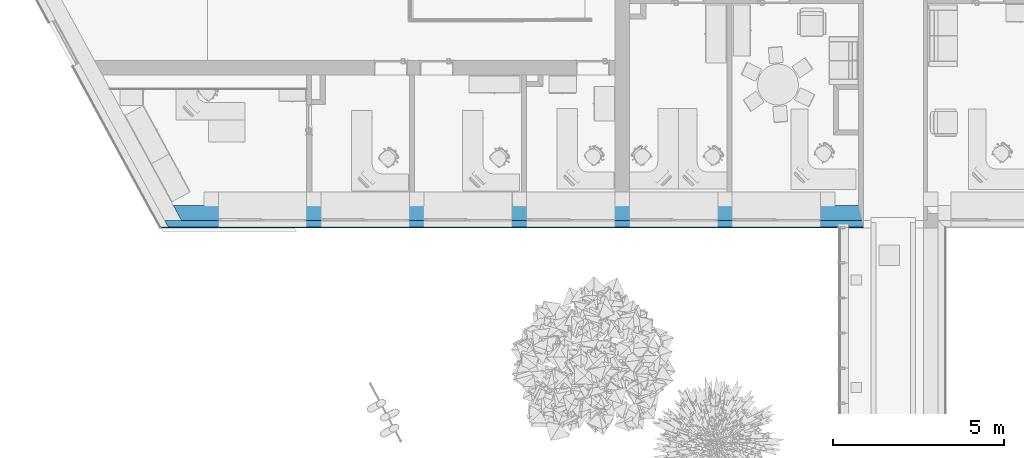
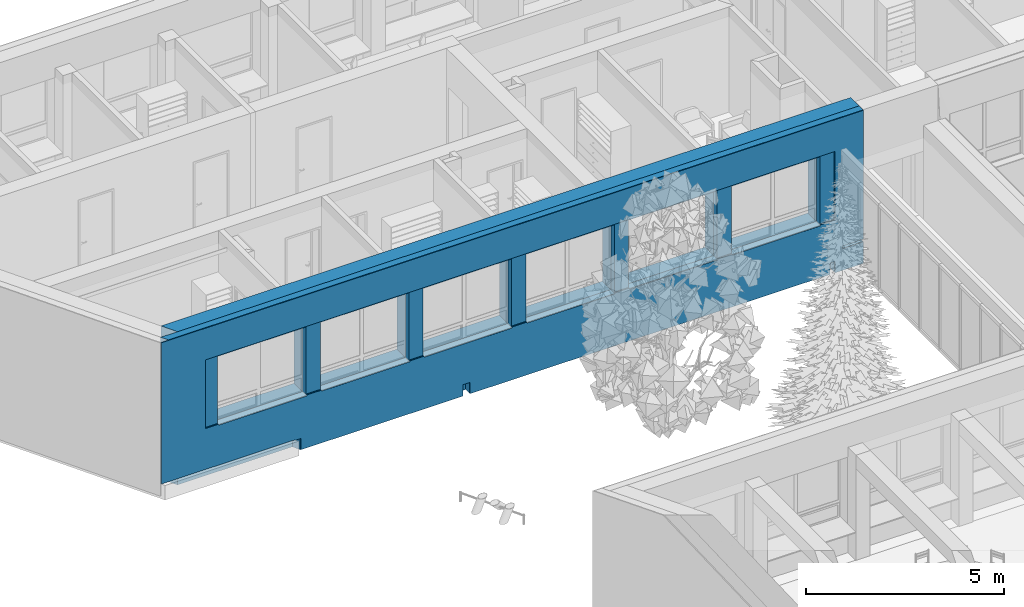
# One storey, part 86 of 194: 3 building element parts, 6 openings, 1 element without a shape of its own.
"""IFC2X3 building model written with IfcOpenShell, lengths in millimetres."""

from ifc_helpers import new_model, entity, si_unit, converted_unit, derived_unit, money_unit, direction, frame, origin_with_axes, origin_2d_with_axis, place, context, subcontext, project, spatial, polyline, rectangle, outline, extrude, boolean, faceted_brep, material, type_object, element, aggregate, save


model = new_model("IFC2X3")

# Units and contexts
model_context = context("Model", 3, precision=1e-05, world=origin_with_axes(), true_north=direction((0.0, 1.0)))
body_context = subcontext(model_context, "Body", "Model", "MODEL_VIEW")
ifc_project = project(units=[si_unit("LENGTHUNIT", "METRE", prefix="MILLI"), si_unit("AREAUNIT", "SQUARE_METRE"), si_unit("VOLUMEUNIT", "CUBIC_METRE"), converted_unit("PLANEANGLEUNIT", "DEGREE", entity("IfcPlaneAngleMeasure", 0.0174532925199), si_unit("PLANEANGLEUNIT", "RADIAN"), dimensions=[0, 0, 0, 0, 0, 0, 0]), si_unit("SOLIDANGLEUNIT", "STERADIAN"), money_unit("EUR"), converted_unit("TIMEUNIT", "Year", entity("IfcTimeMeasure", 31556926.0), si_unit("TIMEUNIT", "SECOND"), dimensions=[0, 0, 1, 0, 0, 0, 0]), si_unit("MASSUNIT", "GRAM", prefix="KILO"), si_unit("THERMODYNAMICTEMPERATUREUNIT", "DEGREE_CELSIUS"), si_unit("LUMINOUSINTENSITYUNIT", "LUMEN"), si_unit("ENERGYUNIT", "JOULE", prefix="MEGA"), derived_unit("THERMALCONDUCTANCEUNIT", [(si_unit("POWERUNIT", "WATT"), 1), (si_unit("LENGTHUNIT", "METRE"), -1), (si_unit("THERMODYNAMICTEMPERATUREUNIT", "KELVIN"), -1)]), derived_unit("SPECIFICHEATCAPACITYUNIT", [(si_unit("ENERGYUNIT", "JOULE"), 1), (si_unit("MASSUNIT", "GRAM", prefix="KILO"), -1), (si_unit("THERMODYNAMICTEMPERATUREUNIT", "KELVIN"), -1)]), derived_unit("MASSDENSITYUNIT", [(si_unit("MASSUNIT", "GRAM", prefix="KILO"), 1), (si_unit("VOLUMEUNIT", "CUBIC_METRE"), -1)])], contexts=[model_context])

# Site, building, storey
site_placement = place(None, origin_with_axes())
site = spatial("IfcSite", under=ifc_project, at=site_placement, Name="Site", CompositionType="ELEMENT")
building_placement = place(site_placement, origin_with_axes())
building = spatial("IfcBuilding", under=site, at=building_placement, Name="Building", CompositionType="ELEMENT")
storey_placement = place(building_placement, frame((0.0, 0.0, 3000.0), z_axis=(0.0, 0.0, 1.0), x_axis=(1.0, 0.0, 0.0)))
storey = spatial("IfcBuildingStorey", under=building, at=storey_placement, Name="2 KORRUS", CompositionType="ELEMENT", Elevation=3000.0)

# Wall, openings, building element parts
wall_type = type_object("IfcWallType", Name="VS4", PredefinedType="NOTDEFINED")
wall_placement = place(storey_placement, frame((17590.5379718, 34349.5880463, -750.0), z_axis=(0.0, 0.0, 1.0), x_axis=(0.999999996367, 8.52438352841e-05, 0.0)))
wall = element("IfcWall", 1, at=wall_placement, inside=storey, type_object=wall_type, Name="VS4")
opening_1_placement = place(wall_placement, frame((2854.92214008, 0.0, 1600.0), z_axis=(0.0, 0.0, 1.0), x_axis=(1.0, 0.0, 0.0)))
element("IfcOpeningElement", 2, at=opening_1_placement, cuts=wall, Name="välisaken * Double Window 22", context=body_context, shape_type="SweptSolid", body=[
    extrude(rectangle(XDim=2580.0, YDim=2100.0, at=origin_2d_with_axis()), frame((-1.13686837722e-10, -20.0000000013, 1050.0), z_axis=(0.0, 1.0, 0.0), x_axis=(-1.0, 0.0, 0.0)), (0.0, 0.0, 1.0), 1100.0),
    extrude(rectangle(XDim=2580.0, YDim=2100.0, at=origin_2d_with_axis()), frame((0.0, -20.0000000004, 1050.0), z_axis=(0.0, -1.0, 0.0), x_axis=(-1.0, 0.0, 0.0)), (0.0, 0.0, 1.0), 850.000000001),
])
opening_2_placement = place(wall_placement, frame((5856.58313376, 0.0, 1600.0), z_axis=(0.0, 0.0, 1.0), x_axis=(1.0, 0.0, 0.0)))
element("IfcOpeningElement", 3, at=opening_2_placement, cuts=wall, Name="välisaken * Double Window 22", context=body_context, shape_type="SweptSolid", body=[
    extrude(rectangle(XDim=2580.0, YDim=2100.0, at=origin_2d_with_axis()), frame((0.0, -20.0000000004, 1050.0), z_axis=(0.0, 1.0, 0.0), x_axis=(-1.0, 0.0, 0.0)), (0.0, 0.0, 1.0), 1100.0),
    extrude(rectangle(XDim=2580.0, YDim=2100.0, at=origin_2d_with_axis()), frame((1.13686837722e-10, -19.9999999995, 1050.0), z_axis=(0.0, -1.0, 0.0), x_axis=(-1.0, 0.0, 0.0)), (0.0, 0.0, 1.0), 850.000000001),
])
opening_3_placement = place(wall_placement, frame((8847.04614995, 0.0, 1600.0), z_axis=(0.0, 0.0, 1.0), x_axis=(1.0, 0.0, 0.0)))
element("IfcOpeningElement", 4, at=opening_3_placement, cuts=wall, Name="välisaken * Double Window 22", context=body_context, shape_type="SweptSolid", body=[
    extrude(rectangle(XDim=2580.0, YDim=2100.0, at=origin_2d_with_axis()), frame((-1.13686837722e-10, -20.0000000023, 1050.0), z_axis=(0.0, 1.0, 0.0), x_axis=(-1.0, 0.0, 0.0)), (0.0, 0.0, 1.0), 1100.0),
    extrude(rectangle(XDim=2580.0, YDim=2100.0, at=origin_2d_with_axis()), frame((0.0, -20.0000000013, 1050.0), z_axis=(0.0, -1.0, 0.0), x_axis=(-1.0, 0.0, 0.0)), (0.0, 0.0, 1.0), 850.000000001),
])
opening_4_placement = place(wall_placement, frame((11854.7149031, 9.09494701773e-10, 1600.0), z_axis=(0.0, 0.0, 1.0), x_axis=(1.0, 0.0, 0.0)))
element("IfcOpeningElement", 5, at=opening_4_placement, cuts=wall, Name="välisaken * Double Window 22", context=body_context, shape_type="SweptSolid", body=[
    extrude(rectangle(XDim=2580.0, YDim=2100.0, at=origin_2d_with_axis()), frame((0.0, -20.0000000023, 1050.0), z_axis=(0.0, 1.0, 0.0), x_axis=(-1.0, 0.0, 0.0)), (0.0, 0.0, 1.0), 1100.0),
    extrude(rectangle(XDim=2580.0, YDim=2100.0, at=origin_2d_with_axis()), frame((1.13686837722e-10, -20.0000000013, 1050.0), z_axis=(0.0, -1.0, 0.0), x_axis=(-1.0, 0.0, 0.0)), (0.0, 0.0, 1.0), 850.000000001),
])
opening_5_placement = place(wall_placement, frame((14854.7072847, 9.09494701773e-10, 1600.0), z_axis=(0.0, 0.0, 1.0), x_axis=(1.0, 0.0, 0.0)))
element("IfcOpeningElement", 6, at=opening_5_placement, cuts=wall, Name="välisaken * Double Window 22", context=body_context, shape_type="SweptSolid", body=[
    extrude(rectangle(XDim=2580.0, YDim=2100.0, at=origin_2d_with_axis()), frame((0.0, -20.0000000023, 1050.0), z_axis=(0.0, 1.0, 0.0), x_axis=(-1.0, 0.0, 0.0)), (0.0, 0.0, 1.0), 1100.0),
    extrude(rectangle(XDim=2580.0, YDim=2100.0, at=origin_2d_with_axis()), frame((1.13686837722e-10, -20.0000000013, 1050.0), z_axis=(0.0, -1.0, 0.0), x_axis=(-1.0, 0.0, 0.0)), (0.0, 0.0, 1.0), 850.000000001),
])
opening_6_placement = place(wall_placement, frame((17854.8632739, 0.0, 1600.0), z_axis=(0.0, 0.0, 1.0), x_axis=(1.0, 0.0, 0.0)))
element("IfcOpeningElement", 7, at=opening_6_placement, cuts=wall, Name="välisaken * Double Window 22", context=body_context, shape_type="SweptSolid", body=[
    extrude(rectangle(XDim=2580.0, YDim=2100.0, at=origin_2d_with_axis()), frame((-1.13686837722e-10, -20.0000000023, 1050.0), z_axis=(0.0, 1.0, 0.0), x_axis=(-1.0, 0.0, 0.0)), (0.0, 0.0, 1.0), 1100.0),
    extrude(rectangle(XDim=2580.0, YDim=2100.0, at=origin_2d_with_axis()), frame((0.0, -20.0000000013, 1050.0), z_axis=(0.0, -1.0, 0.0), x_axis=(-1.0, 0.0, 0.0)), (0.0, 0.0, 1.0), 850.000000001),
])
ifc_material_1 = material(Name="Tellis - Konstuktsioon")
building_element_part_1_placement = place(wall_placement, origin_with_axes())
solid_1 = boolean("DIFFERENCE", boolean("DIFFERENCE", boolean("DIFFERENCE", boolean("DIFFERENCE", boolean("DIFFERENCE", boolean("DIFFERENCE", boolean("DIFFERENCE", boolean("DIFFERENCE", extrude(outline(polyline([(-484.074926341, 0.0), (20393.3507712, 9.09494701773e-10), (20393.3507712, 430.0), (-484.074926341, 430.0), (-484.074926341, 0.0)])), origin_with_axes(), (0.0, 0.0, 1.0), 4730.0), faceted_brep([(-484.074926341, 0.0, 4730.0), (-484.074926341, 0.0, 0.0), (489.396681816, -9.09494701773e-10, 0.0), (489.396681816, -9.09494701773e-10, 367.85512503), (489.396681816, -9.09494701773e-10, 4730.0), (-484.074926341, 430.0, 4730.0), (-484.074926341, 430.0, 0.0), (255.710755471, 430.0, 0.0), (255.710755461, 430.000000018, 4730.0)], [[[0, 1, 2, 3, 4]], [[1, 0, 5, 6]], [[1, 6, 7, 2]], [[7, 8, 4, 3, 2]], [[0, 4, 8, 5]], [[6, 5, 8, 7]]])), faceted_brep([(20393.3141136, 9.09494701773e-10, 750.0), (20393.3141136, 9.09494701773e-10, 4000.0), (20393.3141164, 0.0, 4730.0), (20393.3141164, 430.0, 0.0), (20393.3141154, 9.09494701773e-10, 0.0), (20393.3507712, 1.81898940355e-09, 0.0), (20393.3507712, 1.81898940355e-09, 4730.0), (20393.3507656, 429.999996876, 750.0), (20393.3507712, 430.0, 0.0), (20393.3507656, 429.999997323, 4000.0), (20393.3507712, 430.0, 4730.0), (20393.3141164, 430.000000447, 4730.0)], [[[0, 1, 2, 3, 4]], [[1, 0, 4, 5, 6, 2]], [[3, 2, 7]], [[4, 3, 8, 5]], [[7, 9, 10, 6, 5, 8]], [[11, 2, 6, 10]], [[2, 9, 7]], [[3, 7, 8]], [[9, 11, 10]], [[2, 11, 9]]])), faceted_brep([(108.691128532, -200.0, 367.85512503), (108.691128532, -200.0, 4730.0), (-484.074926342, -200.0, 4730.0), (-484.074926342, -200.0, 0.0), (3953.73651396, -200.000000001, 0.0), (3953.73651396, -200.0, 350.0), (3785.4435919, -200.0, 350.0), (3785.4435919, -200.000000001, 367.85512503), (5.68434188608e-10, 0.0, 4730.0), (5.68434188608e-10, 0.0, 367.85512503), (-484.074926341, 0.0, 4730.0), (-484.074926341, 0.0, 0.0), (3842.28870899, -9.09494701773e-10, 0.0), (3842.28870899, -9.09494701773e-10, 350.0), (3675.46643003, -9.09494701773e-10, 350.0), (3675.46643003, 0.0, 367.85512503)], [[[0, 1, 2, 3, 4, 5, 6, 7]], [[8, 1, 0, 9]], [[1, 8, 10, 2]], [[10, 11, 3, 2]], [[12, 4, 3, 11]], [[4, 12, 13, 5]], [[13, 14, 6, 5]], [[14, 15, 7, 6]], [[15, 9, 0, 7]], [[13, 12, 11, 10, 8, 9, 15, 14]]])), faceted_brep([(8705.25905112, -200.0, 350.0), (8705.25905112, -200.0, 0.0), (8905.25917936, -200.0, 0.0), (8905.25917936, -200.0, 350.0), (8705.03256246, 0.0, 0.0), (8705.03256246, 9.09494701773e-10, 350.0), (8905.0326907, 0.0, 0.0), (8905.0326907, 0.0, 350.0)], [[[0, 1, 2, 3]], [[4, 1, 0, 5]], [[6, 2, 1, 4]], [[2, 6, 7, 3]], [[7, 5, 0, 3]], [[7, 6, 4, 5]]])), faceted_brep([(1187.75777551, -200.0, 1630.0), (19563.7740258, -199.999999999, 1630.0), (19563.7740258, -199.999999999, 3750.0), (1187.75777551, -200.0, 3750.0), (1187.75989417, -175.145925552, 1630.0), (19563.7760109, -176.712367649, 1630.0), (19563.7760109, -176.712367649, 3750.0), (1187.75989417, -175.145925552, 3750.0)], [[[0, 1, 2, 3]], [[1, 0, 4, 5]], [[2, 1, 5, 6]], [[3, 2, 6, 7]], [[0, 3, 7, 4]], [[5, 4, 7, 6]]])), faceted_brep([(19413.7913698, 0.0, 0.0), (19413.7913698, 0.0, 350.0), (19563.7913704, 9.09494701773e-10, 350.0), (19563.7913704, 0.0, 0.0), (19413.774321, -200.0, 0.0), (19413.774321, -200.0, 350.0), (19563.7743216, -200.0, 350.0), (19563.7743216, -200.0, 0.0)], [[[0, 1, 2, 3]], [[1, 0, 4, 5]], [[2, 1, 5, 6]], [[3, 2, 6, 7]], [[4, 0, 3, 7]], [[5, 4, 7, 6]]])), faceted_brep([(20393.3141164, 0.0, 4730.0), (20393.3141164, -200.0, 4730.0), (20393.3507712, -199.999999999, 4730.0), (20393.3507712, 1.81898940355e-09, 4730.0), (20393.3141136, 9.09494701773e-10, 4000.0), (20393.2988849, -200.0, 670.0), (20393.3141164, -200.0, 0.0), (20393.3507712, -199.999999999, 0.0), (20393.2970662, -200.0, 4000.0), (20393.2970662, -200.0, 750.0), (19776.6055617, -200.0, 750.0), (19776.6055617, -200.0, 670.0), (20393.3507712, 1.81898940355e-09, 0.0), (20393.3141164, 9.09494701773e-10, 0.0), (20393.3141136, 9.09494701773e-10, 750.0), (20393.3141164, -100.001962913, 670.0), (20393.3055897, -100.001962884, 750.0), (19776.6493423, -99.9998208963, 750.0), (19776.6493423, -99.9998208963, 670.0)], [[[0, 1, 2, 3]], [[1, 0, 4]], [[5, 6, 7, 2, 1, 8, 9, 10, 11]], [[2, 7, 12, 3]], [[4, 0, 3, 12, 13, 14]], [[8, 1, 4]], [[6, 5, 15]], [[6, 13, 12, 7]], [[9, 8, 4, 14, 16]], [[16, 17, 10, 9]], [[17, 18, 11, 10]], [[18, 15, 5, 11]], [[13, 6, 15, 14]], [[16, 14, 15]], [[17, 16, 15, 18]]])), faceted_brep([(-108.066122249, -219.999999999, 367.85512503), (-108.066122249, -219.999999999, 4730.0), (-484.074926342, -219.999999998, 4730.0), (-484.074926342, -219.999999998, 0.0), (3964.88129446, -220.0, 0.0), (3964.88129446, -219.999999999, 350.0), (3796.44130809, -219.999999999, 350.0), (3796.44130809, -220.0, 367.85512503), (-118.935235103, -200.0, 4730.0), (-118.935235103, -200.0, 367.85512503), (-484.074926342, -200.0, 4730.0), (-484.074926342, -200.0, 0.0), (3953.73651396, -200.000000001, 0.0), (3953.73651396, -200.0, 350.0), (3785.4435919, -200.0, 350.0), (3785.4435919, -200.000000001, 367.85512503)], [[[0, 1, 2, 3, 4, 5, 6, 7]], [[8, 1, 0, 9]], [[1, 8, 10, 2]], [[10, 11, 3, 2]], [[12, 4, 3, 11]], [[5, 4, 12, 13]], [[6, 5, 13, 14]], [[7, 6, 14, 15]], [[0, 7, 15, 9]], [[13, 12, 11, 10, 8, 9, 15, 14]]]))
building_element_part_1 = element("IfcBuildingElementPart", 8, at=building_element_part_1_placement, material=ifc_material_1, Name="Tellis - Konstuktsioon", context=body_context, shape_type="CSG", body=[
    boolean("DIFFERENCE", boolean("DIFFERENCE", boolean("DIFFERENCE", boolean("DIFFERENCE", solid_1, faceted_brep([(8705.28169998, -219.999999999, 350.0), (8705.28169998, -220.0, 0.0), (8905.28182823, -220.0, 0.0), (8905.28182823, -219.999999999, 350.0), (8705.25905112, -200.0, 350.0), (8705.25905112, -200.0, 0.0), (8905.25917936, -200.0, 0.0), (8905.25917936, -200.0, 350.0)], [[[0, 1, 2, 3]], [[1, 0, 4, 5]], [[6, 2, 1, 5]], [[3, 2, 6, 7]], [[0, 3, 7, 4]], [[7, 6, 5, 4]]])), faceted_brep([(1187.75607063, -220.0, 1630.0), (19563.7723209, -220.0, 1630.0), (19563.7723209, -220.0, 3750.0), (1187.75607063, -220.0, 3750.0), (1187.75777551, -200.0, 1630.0), (19563.7740258, -200.0, 1630.0), (19563.7740258, -200.0, 3750.0), (1187.75777551, -200.0, 3750.0)], [[[0, 1, 2, 3]], [[4, 5, 1, 0]], [[5, 6, 2, 1]], [[6, 7, 3, 2]], [[7, 4, 0, 3]], [[4, 7, 6, 5]]])), faceted_brep([(19413.774321, -200.0, 0.0), (19413.774321, -200.0, 350.0), (19563.7743216, -200.0, 350.0), (19563.7743216, -200.0, 0.0), (19413.7726162, -220.0, 0.0), (19413.7726162, -219.999999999, 350.0), (19563.7726167, -219.999999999, 350.0), (19563.7726167, -219.999999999, 0.0)], [[[0, 1, 2, 3]], [[0, 4, 5, 1]], [[5, 6, 2, 1]], [[7, 3, 2, 6]], [[4, 0, 3, 7]], [[5, 4, 7, 6]]])), faceted_brep([(20393.2970662, -200.0, 4000.0), (20393.3141164, -200.0, 4000.0), (20393.3141164, -200.0, 4730.0), (20393.3507712, -199.999999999, 4730.0), (20393.3507712, -199.999999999, 0.0), (20393.3141164, -200.0, 0.0), (20393.3141164, -200.0, 670.0), (19776.6055617, -200.0, 670.0), (19776.6055617, -200.0, 750.0), (20393.2970662, -200.0, 750.0), (20393.2953614, -219.999999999, 4000.0), (20393.3141164, -219.999999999, 4000.0), (20393.3141164, -219.999999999, 4730.0), (20393.3507712, -219.999999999, 4730.0), (20393.3507712, -219.999999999, 0.0), (20393.3141164, -219.999999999, 0.0), (20393.3141164, -219.999999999, 670.0), (19776.5968056, -219.999999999, 670.0), (19776.5968056, -219.999999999, 750.0), (20393.2953614, -219.999999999, 750.0)], [[[0, 1, 2, 3, 4, 5, 6, 7, 8, 9]], [[1, 0, 10, 11]], [[12, 2, 1, 11]], [[2, 12, 13, 3]], [[13, 14, 4, 3]], [[15, 5, 4, 14]], [[6, 5, 15, 16]], [[6, 16, 17, 7]], [[17, 18, 8, 7]], [[18, 19, 9, 8]], [[0, 9, 19, 10]], [[16, 15, 14, 13, 12, 11, 10, 19, 18, 17]]])),
])
ifc_material_2 = material(Name="Soojustus - Plastik Kõva")
building_element_part_2_placement = place(wall_placement, origin_with_axes())
solid_2 = boolean("DIFFERENCE", boolean("DIFFERENCE", boolean("DIFFERENCE", boolean("DIFFERENCE", boolean("DIFFERENCE", boolean("DIFFERENCE", boolean("DIFFERENCE", boolean("DIFFERENCE", extrude(outline(polyline([(-484.074926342, -200.0), (20393.3507712, -199.999999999), (20393.3507712, 9.09494701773e-10), (-484.074926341, 0.0), (-484.074926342, -200.0)])), origin_with_axes(), (0.0, 0.0, 1.0), 4730.0), faceted_brep([(-484.074926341, 0.0, 4730.0), (-484.074926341, 0.0, 0.0), (489.396681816, -9.09494701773e-10, 0.0), (489.396681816, -9.09494701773e-10, 367.85512503), (489.396681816, -9.09494701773e-10, 4730.0), (-484.074926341, 430.0, 4730.0), (-484.074926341, 430.0, 0.0), (255.710755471, 430.0, 0.0), (255.710755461, 430.000000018, 4730.0)], [[[0, 1, 2, 3, 4]], [[1, 0, 5, 6]], [[1, 6, 7, 2]], [[7, 8, 4, 3, 2]], [[0, 4, 8, 5]], [[6, 5, 8, 7]]])), faceted_brep([(20393.3141136, 9.09494701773e-10, 750.0), (20393.3141136, 9.09494701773e-10, 4000.0), (20393.3141164, 0.0, 4730.0), (20393.3141164, 430.0, 0.0), (20393.3141154, 9.09494701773e-10, 0.0), (20393.3507712, 1.81898940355e-09, 0.0), (20393.3507712, 1.81898940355e-09, 4730.0), (20393.3507656, 429.999996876, 750.0), (20393.3507712, 430.0, 0.0), (20393.3507656, 429.999997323, 4000.0), (20393.3507712, 430.0, 4730.0), (20393.3141164, 430.000000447, 4730.0)], [[[0, 1, 2, 3, 4]], [[1, 0, 4, 5, 6, 2]], [[3, 2, 7]], [[4, 3, 8, 5]], [[7, 9, 10, 6, 5, 8]], [[11, 2, 6, 10]], [[2, 9, 7]], [[3, 7, 8]], [[9, 11, 10]], [[2, 11, 9]]])), faceted_brep([(108.691128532, -200.0, 367.85512503), (108.691128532, -200.0, 4730.0), (-484.074926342, -200.0, 4730.0), (-484.074926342, -200.0, 0.0), (3953.73651396, -200.000000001, 0.0), (3953.73651396, -200.0, 350.0), (3785.4435919, -200.0, 350.0), (3785.4435919, -200.000000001, 367.85512503), (5.68434188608e-10, 0.0, 4730.0), (5.68434188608e-10, 0.0, 367.85512503), (-484.074926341, 0.0, 4730.0), (-484.074926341, 0.0, 0.0), (3842.28870899, -9.09494701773e-10, 0.0), (3842.28870899, -9.09494701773e-10, 350.0), (3675.46643003, -9.09494701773e-10, 350.0), (3675.46643003, 0.0, 367.85512503)], [[[0, 1, 2, 3, 4, 5, 6, 7]], [[8, 1, 0, 9]], [[1, 8, 10, 2]], [[10, 11, 3, 2]], [[12, 4, 3, 11]], [[4, 12, 13, 5]], [[13, 14, 6, 5]], [[14, 15, 7, 6]], [[15, 9, 0, 7]], [[13, 12, 11, 10, 8, 9, 15, 14]]])), faceted_brep([(8705.25905112, -200.0, 350.0), (8705.25905112, -200.0, 0.0), (8905.25917936, -200.0, 0.0), (8905.25917936, -200.0, 350.0), (8705.03256246, 0.0, 0.0), (8705.03256246, 9.09494701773e-10, 350.0), (8905.0326907, 0.0, 0.0), (8905.0326907, 0.0, 350.0)], [[[0, 1, 2, 3]], [[4, 1, 0, 5]], [[6, 2, 1, 4]], [[2, 6, 7, 3]], [[7, 5, 0, 3]], [[7, 6, 4, 5]]])), faceted_brep([(1187.75777551, -200.0, 1630.0), (19563.7740258, -199.999999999, 1630.0), (19563.7740258, -199.999999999, 3750.0), (1187.75777551, -200.0, 3750.0), (1187.75989417, -175.145925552, 1630.0), (19563.7760109, -176.712367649, 1630.0), (19563.7760109, -176.712367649, 3750.0), (1187.75989417, -175.145925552, 3750.0)], [[[0, 1, 2, 3]], [[1, 0, 4, 5]], [[2, 1, 5, 6]], [[3, 2, 6, 7]], [[0, 3, 7, 4]], [[5, 4, 7, 6]]])), faceted_brep([(19413.7913698, 0.0, 0.0), (19413.7913698, 0.0, 350.0), (19563.7913704, 9.09494701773e-10, 350.0), (19563.7913704, 0.0, 0.0), (19413.774321, -200.0, 0.0), (19413.774321, -200.0, 350.0), (19563.7743216, -200.0, 350.0), (19563.7743216, -200.0, 0.0)], [[[0, 1, 2, 3]], [[1, 0, 4, 5]], [[2, 1, 5, 6]], [[3, 2, 6, 7]], [[4, 0, 3, 7]], [[5, 4, 7, 6]]])), faceted_brep([(20393.3141164, 0.0, 4730.0), (20393.3141164, -200.0, 4730.0), (20393.3507712, -199.999999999, 4730.0), (20393.3507712, 1.81898940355e-09, 4730.0), (20393.3141136, 9.09494701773e-10, 4000.0), (20393.2988849, -200.0, 670.0), (20393.3141164, -200.0, 0.0), (20393.3507712, -199.999999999, 0.0), (20393.2970662, -200.0, 4000.0), (20393.2970662, -200.0, 750.0), (19776.6055617, -200.0, 750.0), (19776.6055617, -200.0, 670.0), (20393.3507712, 1.81898940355e-09, 0.0), (20393.3141164, 9.09494701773e-10, 0.0), (20393.3141136, 9.09494701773e-10, 750.0), (20393.3141164, -100.001962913, 670.0), (20393.3055897, -100.001962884, 750.0), (19776.6493423, -99.9998208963, 750.0), (19776.6493423, -99.9998208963, 670.0)], [[[0, 1, 2, 3]], [[1, 0, 4]], [[5, 6, 7, 2, 1, 8, 9, 10, 11]], [[2, 7, 12, 3]], [[4, 0, 3, 12, 13, 14]], [[8, 1, 4]], [[6, 5, 15]], [[6, 13, 12, 7]], [[9, 8, 4, 14, 16]], [[16, 17, 10, 9]], [[17, 18, 11, 10]], [[18, 15, 5, 11]], [[13, 6, 15, 14]], [[16, 14, 15]], [[17, 16, 15, 18]]])), faceted_brep([(-108.066122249, -219.999999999, 367.85512503), (-108.066122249, -219.999999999, 4730.0), (-484.074926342, -219.999999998, 4730.0), (-484.074926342, -219.999999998, 0.0), (3964.88129446, -220.0, 0.0), (3964.88129446, -219.999999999, 350.0), (3796.44130809, -219.999999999, 350.0), (3796.44130809, -220.0, 367.85512503), (-118.935235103, -200.0, 4730.0), (-118.935235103, -200.0, 367.85512503), (-484.074926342, -200.0, 4730.0), (-484.074926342, -200.0, 0.0), (3953.73651396, -200.000000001, 0.0), (3953.73651396, -200.0, 350.0), (3785.4435919, -200.0, 350.0), (3785.4435919, -200.000000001, 367.85512503)], [[[0, 1, 2, 3, 4, 5, 6, 7]], [[8, 1, 0, 9]], [[1, 8, 10, 2]], [[10, 11, 3, 2]], [[12, 4, 3, 11]], [[5, 4, 12, 13]], [[6, 5, 13, 14]], [[7, 6, 14, 15]], [[0, 7, 15, 9]], [[13, 12, 11, 10, 8, 9, 15, 14]]]))
building_element_part_2 = element("IfcBuildingElementPart", 9, at=building_element_part_2_placement, material=ifc_material_2, Name="Soojustus - Plastik Kõva", context=body_context, shape_type="CSG", body=[
    boolean("DIFFERENCE", boolean("DIFFERENCE", boolean("DIFFERENCE", boolean("DIFFERENCE", solid_2, faceted_brep([(8705.28169998, -219.999999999, 350.0), (8705.28169998, -220.0, 0.0), (8905.28182823, -220.0, 0.0), (8905.28182823, -219.999999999, 350.0), (8705.25905112, -200.0, 350.0), (8705.25905112, -200.0, 0.0), (8905.25917936, -200.0, 0.0), (8905.25917936, -200.0, 350.0)], [[[0, 1, 2, 3]], [[1, 0, 4, 5]], [[6, 2, 1, 5]], [[3, 2, 6, 7]], [[0, 3, 7, 4]], [[7, 6, 5, 4]]])), faceted_brep([(1187.75607063, -220.0, 1630.0), (19563.7723209, -220.0, 1630.0), (19563.7723209, -220.0, 3750.0), (1187.75607063, -220.0, 3750.0), (1187.75777551, -200.0, 1630.0), (19563.7740258, -200.0, 1630.0), (19563.7740258, -200.0, 3750.0), (1187.75777551, -200.0, 3750.0)], [[[0, 1, 2, 3]], [[4, 5, 1, 0]], [[5, 6, 2, 1]], [[6, 7, 3, 2]], [[7, 4, 0, 3]], [[4, 7, 6, 5]]])), faceted_brep([(19413.774321, -200.0, 0.0), (19413.774321, -200.0, 350.0), (19563.7743216, -200.0, 350.0), (19563.7743216, -200.0, 0.0), (19413.7726162, -220.0, 0.0), (19413.7726162, -219.999999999, 350.0), (19563.7726167, -219.999999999, 350.0), (19563.7726167, -219.999999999, 0.0)], [[[0, 1, 2, 3]], [[0, 4, 5, 1]], [[5, 6, 2, 1]], [[7, 3, 2, 6]], [[4, 0, 3, 7]], [[5, 4, 7, 6]]])), faceted_brep([(20393.2970662, -200.0, 4000.0), (20393.3141164, -200.0, 4000.0), (20393.3141164, -200.0, 4730.0), (20393.3507712, -199.999999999, 4730.0), (20393.3507712, -199.999999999, 0.0), (20393.3141164, -200.0, 0.0), (20393.3141164, -200.0, 670.0), (19776.6055617, -200.0, 670.0), (19776.6055617, -200.0, 750.0), (20393.2970662, -200.0, 750.0), (20393.2953614, -219.999999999, 4000.0), (20393.3141164, -219.999999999, 4000.0), (20393.3141164, -219.999999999, 4730.0), (20393.3507712, -219.999999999, 4730.0), (20393.3507712, -219.999999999, 0.0), (20393.3141164, -219.999999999, 0.0), (20393.3141164, -219.999999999, 670.0), (19776.5968056, -219.999999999, 670.0), (19776.5968056, -219.999999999, 750.0), (20393.2953614, -219.999999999, 750.0)], [[[0, 1, 2, 3, 4, 5, 6, 7, 8, 9]], [[1, 0, 10, 11]], [[12, 2, 1, 11]], [[2, 12, 13, 3]], [[13, 14, 4, 3]], [[15, 5, 4, 14]], [[6, 5, 15, 16]], [[6, 16, 17, 7]], [[17, 18, 8, 7]], [[18, 19, 9, 8]], [[0, 9, 19, 10]], [[16, 15, 14, 13, 12, 11, 10, 19, 18, 17]]])),
])
ifc_material_3 = material(Name="Tellis - Viimistlus")
building_element_part_3_placement = place(wall_placement, origin_with_axes())
solid_3 = boolean("DIFFERENCE", boolean("DIFFERENCE", boolean("DIFFERENCE", boolean("DIFFERENCE", boolean("DIFFERENCE", boolean("DIFFERENCE", boolean("DIFFERENCE", boolean("DIFFERENCE", extrude(outline(polyline([(-484.074926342, -219.999999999), (20393.3507712, -219.999999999), (20393.3507712, -199.999999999), (-484.074926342, -200.0), (-484.074926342, -219.999999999)])), origin_with_axes(), (0.0, 0.0, 1.0), 4730.0), faceted_brep([(-484.074926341, 0.0, 4730.0), (-484.074926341, 0.0, 0.0), (489.396681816, -9.09494701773e-10, 0.0), (489.396681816, -9.09494701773e-10, 367.85512503), (489.396681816, -9.09494701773e-10, 4730.0), (-484.074926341, 430.0, 4730.0), (-484.074926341, 430.0, 0.0), (255.710755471, 430.0, 0.0), (255.710755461, 430.000000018, 4730.0)], [[[0, 1, 2, 3, 4]], [[1, 0, 5, 6]], [[1, 6, 7, 2]], [[7, 8, 4, 3, 2]], [[0, 4, 8, 5]], [[6, 5, 8, 7]]])), faceted_brep([(20393.3141136, 9.09494701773e-10, 750.0), (20393.3141136, 9.09494701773e-10, 4000.0), (20393.3141164, 0.0, 4730.0), (20393.3141164, 430.0, 0.0), (20393.3141154, 9.09494701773e-10, 0.0), (20393.3507712, 1.81898940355e-09, 0.0), (20393.3507712, 1.81898940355e-09, 4730.0), (20393.3507656, 429.999996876, 750.0), (20393.3507712, 430.0, 0.0), (20393.3507656, 429.999997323, 4000.0), (20393.3507712, 430.0, 4730.0), (20393.3141164, 430.000000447, 4730.0)], [[[0, 1, 2, 3, 4]], [[1, 0, 4, 5, 6, 2]], [[3, 2, 7]], [[4, 3, 8, 5]], [[7, 9, 10, 6, 5, 8]], [[11, 2, 6, 10]], [[2, 9, 7]], [[3, 7, 8]], [[9, 11, 10]], [[2, 11, 9]]])), faceted_brep([(108.691128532, -200.0, 367.85512503), (108.691128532, -200.0, 4730.0), (-484.074926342, -200.0, 4730.0), (-484.074926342, -200.0, 0.0), (3953.73651396, -200.000000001, 0.0), (3953.73651396, -200.0, 350.0), (3785.4435919, -200.0, 350.0), (3785.4435919, -200.000000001, 367.85512503), (5.68434188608e-10, 0.0, 4730.0), (5.68434188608e-10, 0.0, 367.85512503), (-484.074926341, 0.0, 4730.0), (-484.074926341, 0.0, 0.0), (3842.28870899, -9.09494701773e-10, 0.0), (3842.28870899, -9.09494701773e-10, 350.0), (3675.46643003, -9.09494701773e-10, 350.0), (3675.46643003, 0.0, 367.85512503)], [[[0, 1, 2, 3, 4, 5, 6, 7]], [[8, 1, 0, 9]], [[1, 8, 10, 2]], [[10, 11, 3, 2]], [[12, 4, 3, 11]], [[4, 12, 13, 5]], [[13, 14, 6, 5]], [[14, 15, 7, 6]], [[15, 9, 0, 7]], [[13, 12, 11, 10, 8, 9, 15, 14]]])), faceted_brep([(8705.25905112, -200.0, 350.0), (8705.25905112, -200.0, 0.0), (8905.25917936, -200.0, 0.0), (8905.25917936, -200.0, 350.0), (8705.03256246, 0.0, 0.0), (8705.03256246, 9.09494701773e-10, 350.0), (8905.0326907, 0.0, 0.0), (8905.0326907, 0.0, 350.0)], [[[0, 1, 2, 3]], [[4, 1, 0, 5]], [[6, 2, 1, 4]], [[2, 6, 7, 3]], [[7, 5, 0, 3]], [[7, 6, 4, 5]]])), faceted_brep([(1187.75777551, -200.0, 1630.0), (19563.7740258, -199.999999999, 1630.0), (19563.7740258, -199.999999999, 3750.0), (1187.75777551, -200.0, 3750.0), (1187.75989417, -175.145925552, 1630.0), (19563.7760109, -176.712367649, 1630.0), (19563.7760109, -176.712367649, 3750.0), (1187.75989417, -175.145925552, 3750.0)], [[[0, 1, 2, 3]], [[1, 0, 4, 5]], [[2, 1, 5, 6]], [[3, 2, 6, 7]], [[0, 3, 7, 4]], [[5, 4, 7, 6]]])), faceted_brep([(19413.7913698, 0.0, 0.0), (19413.7913698, 0.0, 350.0), (19563.7913704, 9.09494701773e-10, 350.0), (19563.7913704, 0.0, 0.0), (19413.774321, -200.0, 0.0), (19413.774321, -200.0, 350.0), (19563.7743216, -200.0, 350.0), (19563.7743216, -200.0, 0.0)], [[[0, 1, 2, 3]], [[1, 0, 4, 5]], [[2, 1, 5, 6]], [[3, 2, 6, 7]], [[4, 0, 3, 7]], [[5, 4, 7, 6]]])), faceted_brep([(20393.3141164, 0.0, 4730.0), (20393.3141164, -200.0, 4730.0), (20393.3507712, -199.999999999, 4730.0), (20393.3507712, 1.81898940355e-09, 4730.0), (20393.3141136, 9.09494701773e-10, 4000.0), (20393.2988849, -200.0, 670.0), (20393.3141164, -200.0, 0.0), (20393.3507712, -199.999999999, 0.0), (20393.2970662, -200.0, 4000.0), (20393.2970662, -200.0, 750.0), (19776.6055617, -200.0, 750.0), (19776.6055617, -200.0, 670.0), (20393.3507712, 1.81898940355e-09, 0.0), (20393.3141164, 9.09494701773e-10, 0.0), (20393.3141136, 9.09494701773e-10, 750.0), (20393.3141164, -100.001962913, 670.0), (20393.3055897, -100.001962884, 750.0), (19776.6493423, -99.9998208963, 750.0), (19776.6493423, -99.9998208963, 670.0)], [[[0, 1, 2, 3]], [[1, 0, 4]], [[5, 6, 7, 2, 1, 8, 9, 10, 11]], [[2, 7, 12, 3]], [[4, 0, 3, 12, 13, 14]], [[8, 1, 4]], [[6, 5, 15]], [[6, 13, 12, 7]], [[9, 8, 4, 14, 16]], [[16, 17, 10, 9]], [[17, 18, 11, 10]], [[18, 15, 5, 11]], [[13, 6, 15, 14]], [[16, 14, 15]], [[17, 16, 15, 18]]])), faceted_brep([(-108.066122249, -219.999999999, 367.85512503), (-108.066122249, -219.999999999, 4730.0), (-484.074926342, -219.999999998, 4730.0), (-484.074926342, -219.999999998, 0.0), (3964.88129446, -220.0, 0.0), (3964.88129446, -219.999999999, 350.0), (3796.44130809, -219.999999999, 350.0), (3796.44130809, -220.0, 367.85512503), (-118.935235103, -200.0, 4730.0), (-118.935235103, -200.0, 367.85512503), (-484.074926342, -200.0, 4730.0), (-484.074926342, -200.0, 0.0), (3953.73651396, -200.000000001, 0.0), (3953.73651396, -200.0, 350.0), (3785.4435919, -200.0, 350.0), (3785.4435919, -200.000000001, 367.85512503)], [[[0, 1, 2, 3, 4, 5, 6, 7]], [[8, 1, 0, 9]], [[1, 8, 10, 2]], [[10, 11, 3, 2]], [[12, 4, 3, 11]], [[5, 4, 12, 13]], [[6, 5, 13, 14]], [[7, 6, 14, 15]], [[0, 7, 15, 9]], [[13, 12, 11, 10, 8, 9, 15, 14]]]))
building_element_part_3 = element("IfcBuildingElementPart", 10, at=building_element_part_3_placement, material=ifc_material_3, Name="Tellis - Viimistlus", context=body_context, shape_type="CSG", body=[
    boolean("DIFFERENCE", boolean("DIFFERENCE", boolean("DIFFERENCE", boolean("DIFFERENCE", solid_3, faceted_brep([(8705.28169998, -219.999999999, 350.0), (8705.28169998, -220.0, 0.0), (8905.28182823, -220.0, 0.0), (8905.28182823, -219.999999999, 350.0), (8705.25905112, -200.0, 350.0), (8705.25905112, -200.0, 0.0), (8905.25917936, -200.0, 0.0), (8905.25917936, -200.0, 350.0)], [[[0, 1, 2, 3]], [[1, 0, 4, 5]], [[6, 2, 1, 5]], [[3, 2, 6, 7]], [[0, 3, 7, 4]], [[7, 6, 5, 4]]])), faceted_brep([(1187.75607063, -220.0, 1630.0), (19563.7723209, -220.0, 1630.0), (19563.7723209, -220.0, 3750.0), (1187.75607063, -220.0, 3750.0), (1187.75777551, -200.0, 1630.0), (19563.7740258, -200.0, 1630.0), (19563.7740258, -200.0, 3750.0), (1187.75777551, -200.0, 3750.0)], [[[0, 1, 2, 3]], [[4, 5, 1, 0]], [[5, 6, 2, 1]], [[6, 7, 3, 2]], [[7, 4, 0, 3]], [[4, 7, 6, 5]]])), faceted_brep([(19413.774321, -200.0, 0.0), (19413.774321, -200.0, 350.0), (19563.7743216, -200.0, 350.0), (19563.7743216, -200.0, 0.0), (19413.7726162, -220.0, 0.0), (19413.7726162, -219.999999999, 350.0), (19563.7726167, -219.999999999, 350.0), (19563.7726167, -219.999999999, 0.0)], [[[0, 1, 2, 3]], [[0, 4, 5, 1]], [[5, 6, 2, 1]], [[7, 3, 2, 6]], [[4, 0, 3, 7]], [[5, 4, 7, 6]]])), faceted_brep([(20393.2970662, -200.0, 4000.0), (20393.3141164, -200.0, 4000.0), (20393.3141164, -200.0, 4730.0), (20393.3507712, -199.999999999, 4730.0), (20393.3507712, -199.999999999, 0.0), (20393.3141164, -200.0, 0.0), (20393.3141164, -200.0, 670.0), (19776.6055617, -200.0, 670.0), (19776.6055617, -200.0, 750.0), (20393.2970662, -200.0, 750.0), (20393.2953614, -219.999999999, 4000.0), (20393.3141164, -219.999999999, 4000.0), (20393.3141164, -219.999999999, 4730.0), (20393.3507712, -219.999999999, 4730.0), (20393.3507712, -219.999999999, 0.0), (20393.3141164, -219.999999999, 0.0), (20393.3141164, -219.999999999, 670.0), (19776.5968056, -219.999999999, 670.0), (19776.5968056, -219.999999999, 750.0), (20393.2953614, -219.999999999, 750.0)], [[[0, 1, 2, 3, 4, 5, 6, 7, 8, 9]], [[1, 0, 10, 11]], [[12, 2, 1, 11]], [[2, 12, 13, 3]], [[13, 14, 4, 3]], [[15, 5, 4, 14]], [[6, 5, 15, 16]], [[6, 16, 17, 7]], [[17, 18, 8, 7]], [[18, 19, 9, 8]], [[0, 9, 19, 10]], [[16, 15, 14, 13, 12, 11, 10, 19, 18, 17]]])),
])
aggregate(wall, [building_element_part_1, building_element_part_2, building_element_part_3])

save(model, "model.ifc")
